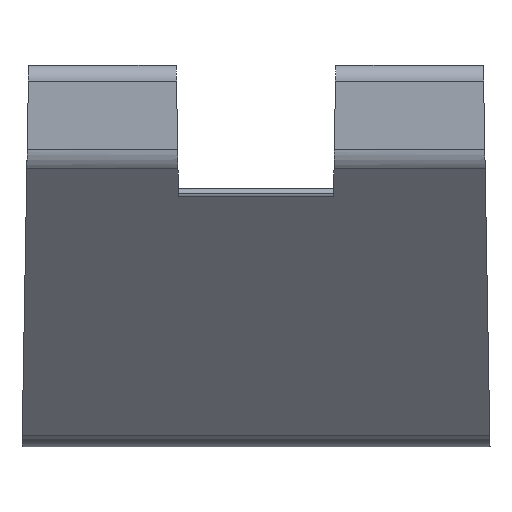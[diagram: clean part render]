
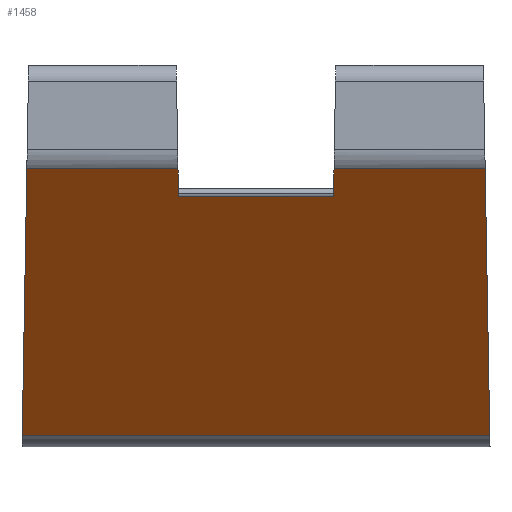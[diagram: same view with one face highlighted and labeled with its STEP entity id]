
A CAD part, left-side view. The second image highlights one B-rep face of the part: STEP entity #1458.
In plain terms, the highlighted planar face has unit normal (-0.768, 0, -0.64).
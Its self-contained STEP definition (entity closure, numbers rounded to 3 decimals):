
#68=PLANE('',#1602);
#132=FACE_OUTER_BOUND('',#212,.T.);
#212=EDGE_LOOP('',(#1277,#1278,#1279,#1280,#1281,#1282,#1283,#1284,#1285,
#1286));
#338=LINE('',#2262,#494);
#350=LINE('',#2297,#506);
#360=LINE('',#2329,#516);
#365=LINE('',#2346,#521);
#368=LINE('',#2357,#524);
#370=LINE('',#2361,#526);
#389=LINE('',#2400,#545);
#398=LINE('',#2428,#554);
#419=LINE('',#2474,#575);
#420=LINE('',#2475,#576);
#494=VECTOR('',#1768,1.);
#506=VECTOR('',#1794,1.);
#516=VECTOR('',#1818,1.);
#521=VECTOR('',#1833,1.);
#524=VECTOR('',#1846,1.);
#526=VECTOR('',#1852,1.);
#545=VECTOR('',#1889,1.);
#554=VECTOR('',#1926,1.);
#575=VECTOR('',#1983,1.);
#576=VECTOR('',#1984,1.);
#661=VERTEX_POINT('',#2259);
#662=VERTEX_POINT('',#2261);
#677=VERTEX_POINT('',#2294);
#678=VERTEX_POINT('',#2296);
#692=VERTEX_POINT('',#2326);
#693=VERTEX_POINT('',#2328);
#700=VERTEX_POINT('',#2344);
#703=VERTEX_POINT('',#2356);
#714=VERTEX_POINT('',#2398);
#719=VERTEX_POINT('',#2426);
#815=EDGE_CURVE('',#661,#662,#338,.T.);
#833=EDGE_CURVE('',#678,#677,#350,.T.);
#849=EDGE_CURVE('',#692,#693,#360,.T.);
#858=EDGE_CURVE('',#662,#700,#365,.T.);
#863=EDGE_CURVE('',#703,#692,#368,.T.);
#866=EDGE_CURVE('',#703,#700,#370,.T.);
#886=EDGE_CURVE('',#661,#714,#389,.T.);
#900=EDGE_CURVE('',#719,#714,#398,.T.);
#925=EDGE_CURVE('',#719,#678,#419,.T.);
#926=EDGE_CURVE('',#677,#693,#420,.T.);
#1277=ORIENTED_EDGE('',*,*,#863,.F.);
#1278=ORIENTED_EDGE('',*,*,#866,.T.);
#1279=ORIENTED_EDGE('',*,*,#858,.F.);
#1280=ORIENTED_EDGE('',*,*,#815,.F.);
#1281=ORIENTED_EDGE('',*,*,#886,.T.);
#1282=ORIENTED_EDGE('',*,*,#900,.F.);
#1283=ORIENTED_EDGE('',*,*,#925,.T.);
#1284=ORIENTED_EDGE('',*,*,#833,.T.);
#1285=ORIENTED_EDGE('',*,*,#926,.T.);
#1286=ORIENTED_EDGE('',*,*,#849,.F.);
#1458=ADVANCED_FACE('',(#132),#68,.T.);
#1602=AXIS2_PLACEMENT_3D('',#2473,#1981,#1982);
#1768=DIRECTION('',(0.64,-0.008,-0.768));
#1794=DIRECTION('',(-0.64,0.013,0.768));
#1818=DIRECTION('',(-0.64,-0.008,0.768));
#1833=DIRECTION('',(0.64,0.032,-0.768));
#1846=DIRECTION('',(-0.64,0.032,0.768));
#1852=DIRECTION('',(0.,1.,0.));
#1889=DIRECTION('',(0.,1.,0.));
#1926=DIRECTION('',(-0.64,-0.013,0.768));
#1981=DIRECTION('center_axis',(-0.768,0.,-0.64));
#1982=DIRECTION('ref_axis',(-0.64,0.,0.768));
#1983=DIRECTION('',(0.,-1.,0.));
#1984=DIRECTION('',(0.,1.,0.));
#2259=CARTESIAN_POINT('',(-14.721,25.004,-4.203));
#2261=CARTESIAN_POINT('',(-14.058,24.996,-4.999));
#2262=CARTESIAN_POINT('',(-7.734,24.915,-12.588));
#2294=CARTESIAN_POINT('',(-14.721,15.145,-4.203));
#2296=CARTESIAN_POINT('',(-7.586,14.996,-12.766));
#2297=CARTESIAN_POINT('',(-7.786,15.,-12.526));
#2326=CARTESIAN_POINT('',(-14.058,20.004,-4.999));
#2328=CARTESIAN_POINT('',(-14.721,19.996,-4.203));
#2329=CARTESIAN_POINT('',(-7.813,20.084,-12.494));
#2344=CARTESIAN_POINT('',(-13.978,25.,-5.095));
#2346=CARTESIAN_POINT('',(-7.997,25.299,-12.272));
#2356=CARTESIAN_POINT('',(-13.978,20.,-5.095));
#2357=CARTESIAN_POINT('',(-7.69,19.686,-12.641));
#2361=CARTESIAN_POINT('',(-13.978,25.,-5.095));
#2398=CARTESIAN_POINT('',(-14.721,29.855,-4.203));
#2400=CARTESIAN_POINT('',(-14.721,15.,-4.203));
#2426=CARTESIAN_POINT('',(-7.586,30.004,-12.766));
#2428=CARTESIAN_POINT('',(-7.915,29.997,-12.371));
#2473=CARTESIAN_POINT('Origin',(-7.786,15.,-12.526));
#2474=CARTESIAN_POINT('',(-7.586,15.,-12.766));
#2475=CARTESIAN_POINT('',(-14.721,15.,-4.203));
